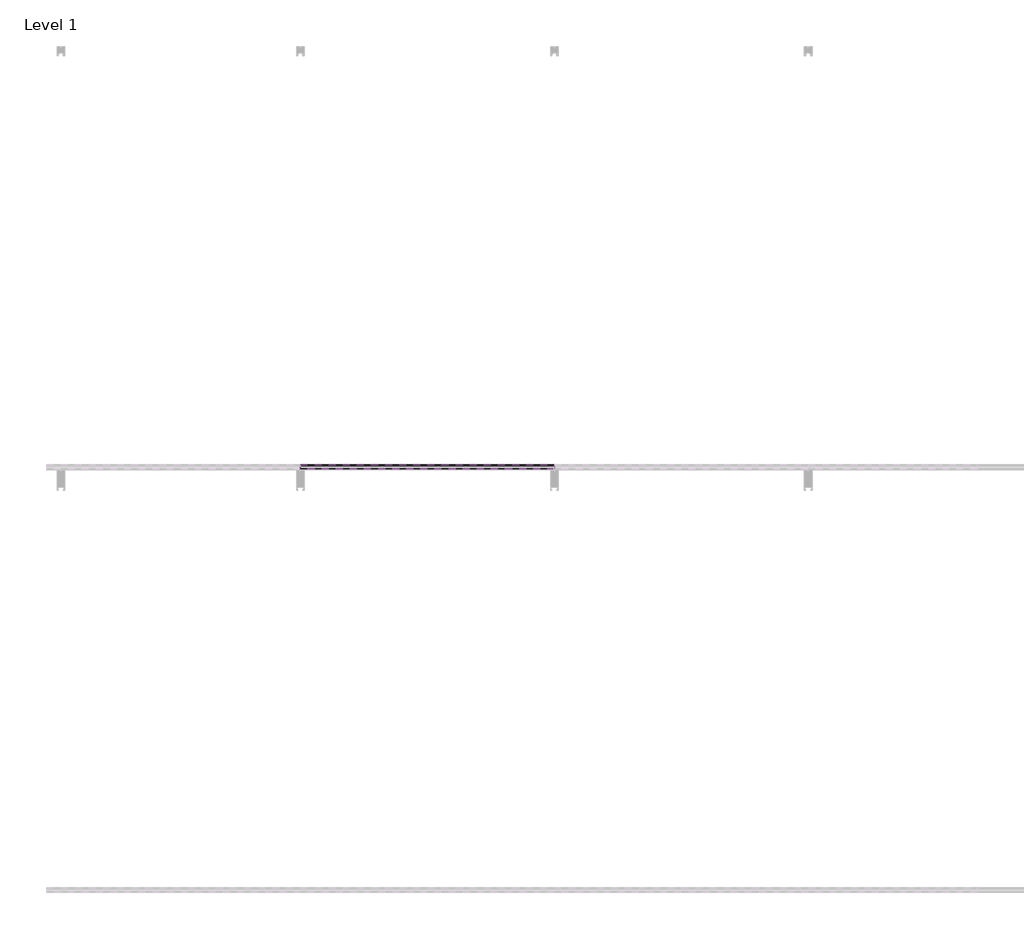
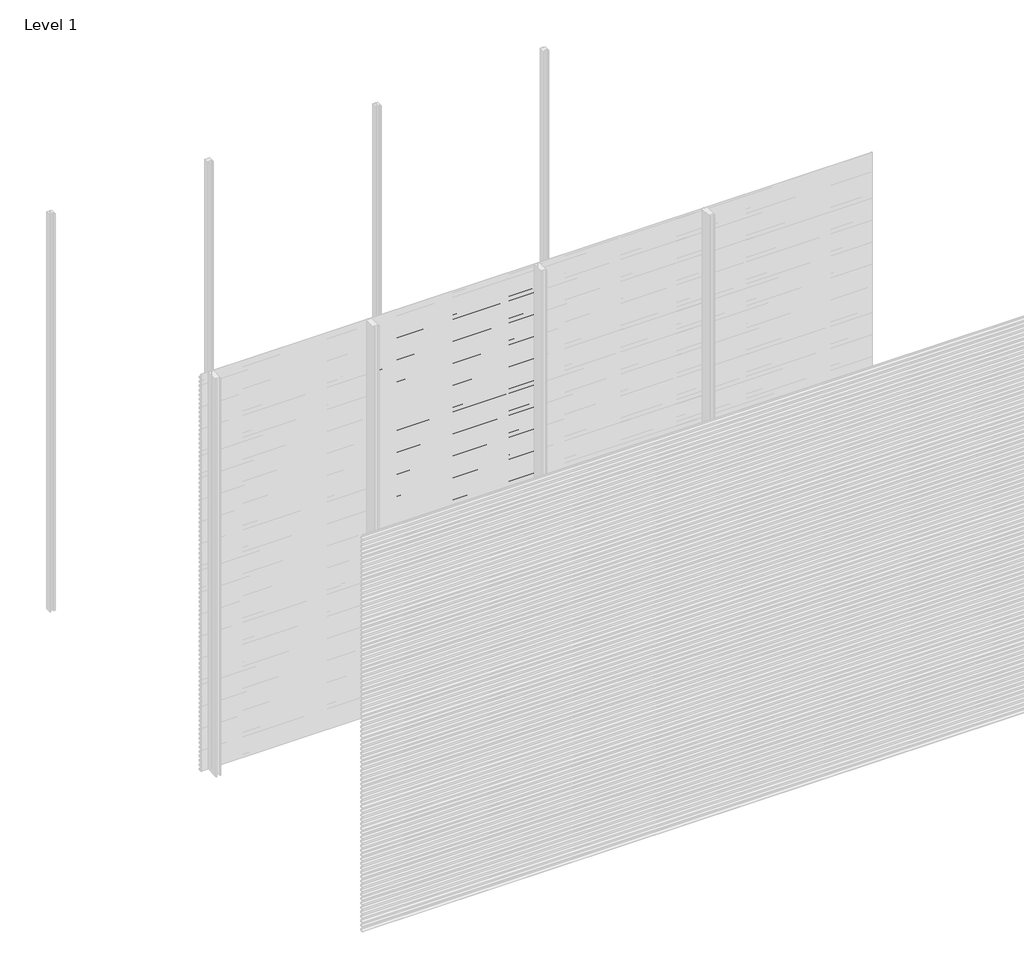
# One storey, part 51 of 77: 72 proxies.
"""IFC4 building model written with IfcOpenShell, lengths in millimetres."""

from ifc_helpers import new_model, si_unit, frame, origin, place, context, project, spatial, polyline, outline, extrude, element, save

model = new_model("IFC4")

# Units and contexts
model_context = context("Model", 3, world=origin())
ifc_project = project(units=[si_unit("LENGTHUNIT", "METRE", prefix="MILLI")], contexts=[model_context])

# Site, building, storey
site = spatial("IfcSite", under=ifc_project)
building = spatial("IfcBuilding", under=site)
storey = spatial("IfcBuildingStorey", under=building, Name="Level 1", Elevation=0.0)

# Proxies
placement = place(None, origin())
element("IfcBuildingElementProxy", 1, Name="Wall Sweeps", at=placement, inside=storey, context=model_context, shape_type="SweptSolid", body=[
    extrude(outline(polyline([(-17978.6, 2806.0359887), (-17998.0, 2817.2366691), (-17998.0, 2830.5), (-17997.0, 2830.5), (-17997.0, 2817.8191057), (-17977.6, 2806.6185105), (-17977.6, 2793.0185105), (-17978.6, 2794.5953129), (-17978.6, 2800.4032062), (-17995.9773817, 2792.3), (-17996.4, 2793.2063078), (-17978.6, 2801.5065841), (-17978.6, 2806.0359887)])), frame((1200.0, 0.0, 0.0), z_axis=(1.0, 0.0, 0.0), x_axis=(0.0, 1.0, 0.0)), (0.0, 0.0, 1.0), 1200.0),
])
element("IfcBuildingElementProxy", 2, Name="Wall Sweeps", at=placement, inside=storey, context=model_context, shape_type="SweptSolid", body=[
    extrude(outline(polyline([(-17978.6, 2772.7359887), (-17998.0, 2783.9366691), (-17998.0, 2797.2), (-17997.0, 2797.2), (-17997.0, 2784.5191057), (-17977.6, 2773.3185105), (-17977.6, 2759.7185105), (-17978.6, 2761.2953129), (-17978.6, 2767.1032062), (-17995.9773817, 2759.0), (-17996.4, 2759.9063078), (-17978.6, 2768.2065841), (-17978.6, 2772.7359887)])), frame((1200.0, 0.0, 0.0), z_axis=(1.0, 0.0, 0.0), x_axis=(0.0, 1.0, 0.0)), (0.0, 0.0, 1.0), 1200.0),
])
element("IfcBuildingElementProxy", 3, Name="Wall Sweeps", at=placement, inside=storey, context=model_context, shape_type="SweptSolid", body=[
    extrude(outline(polyline([(-17978.6, 2739.4359887), (-17998.0, 2750.6366691), (-17998.0, 2763.9), (-17997.0, 2763.9), (-17997.0, 2751.2191057), (-17977.6, 2740.0185105), (-17977.6, 2726.4185105), (-17978.6, 2727.9953129), (-17978.6, 2733.8032062), (-17995.9773817, 2725.7), (-17996.4, 2726.6063078), (-17978.6, 2734.9065841), (-17978.6, 2739.4359887)])), frame((1200.0, 0.0, 0.0), z_axis=(1.0, 0.0, 0.0), x_axis=(0.0, 1.0, 0.0)), (0.0, 0.0, 1.0), 1200.0),
])
element("IfcBuildingElementProxy", 4, Name="Wall Sweeps", at=placement, inside=storey, context=model_context, shape_type="SweptSolid", body=[
    extrude(outline(polyline([(-17978.6, 2706.1359887), (-17998.0, 2717.3366691), (-17998.0, 2730.6), (-17997.0, 2730.6), (-17997.0, 2717.9191057), (-17977.6, 2706.7185105), (-17977.6, 2693.1185105), (-17978.6, 2694.6953129), (-17978.6, 2700.5032062), (-17995.9773817, 2692.4), (-17996.4, 2693.3063078), (-17978.6, 2701.6065841), (-17978.6, 2706.1359887)])), frame((1200.0, 0.0, 0.0), z_axis=(1.0, 0.0, 0.0), x_axis=(0.0, 1.0, 0.0)), (0.0, 0.0, 1.0), 1200.0),
])
element("IfcBuildingElementProxy", 5, Name="Wall Sweeps", at=placement, inside=storey, context=model_context, shape_type="SweptSolid", body=[
    extrude(outline(polyline([(-17978.6, 2672.8359887), (-17998.0, 2684.0366691), (-17998.0, 2697.3), (-17997.0, 2697.3), (-17997.0, 2684.6191057), (-17977.6, 2673.4185105), (-17977.6, 2659.8185105), (-17978.6, 2661.3953129), (-17978.6, 2667.2032062), (-17995.9773817, 2659.1), (-17996.4, 2660.0063078), (-17978.6, 2668.3065841), (-17978.6, 2672.8359887)])), frame((1200.0, 0.0, 0.0), z_axis=(1.0, 0.0, 0.0), x_axis=(0.0, 1.0, 0.0)), (0.0, 0.0, 1.0), 1200.0),
])
element("IfcBuildingElementProxy", 6, Name="Wall Sweeps", at=placement, inside=storey, context=model_context, shape_type="SweptSolid", body=[
    extrude(outline(polyline([(-17978.6, 2639.5359887), (-17998.0, 2650.7366691), (-17998.0, 2664.0), (-17997.0, 2664.0), (-17997.0, 2651.3191057), (-17977.6, 2640.1185105), (-17977.6, 2626.5185105), (-17978.6, 2628.0953129), (-17978.6, 2633.9032062), (-17995.9773817, 2625.8), (-17996.4, 2626.7063078), (-17978.6, 2635.0065841), (-17978.6, 2639.5359887)])), frame((1200.0, 0.0, 0.0), z_axis=(1.0, 0.0, 0.0), x_axis=(0.0, 1.0, 0.0)), (0.0, 0.0, 1.0), 1200.0),
])
element("IfcBuildingElementProxy", 7, Name="Wall Sweeps", at=placement, inside=storey, context=model_context, shape_type="SweptSolid", body=[
    extrude(outline(polyline([(-17978.6, 2606.2359887), (-17998.0, 2617.4366691), (-17998.0, 2630.7), (-17997.0, 2630.7), (-17997.0, 2618.0191057), (-17977.6, 2606.8185105), (-17977.6, 2593.2185105), (-17978.6, 2594.7953129), (-17978.6, 2600.6032062), (-17995.9773817, 2592.5), (-17996.4, 2593.4063078), (-17978.6, 2601.7065841), (-17978.6, 2606.2359887)])), frame((1200.0, 0.0, 0.0), z_axis=(1.0, 0.0, 0.0), x_axis=(0.0, 1.0, 0.0)), (0.0, 0.0, 1.0), 1200.0),
])
element("IfcBuildingElementProxy", 8, Name="Wall Sweeps", at=placement, inside=storey, context=model_context, shape_type="SweptSolid", body=[
    extrude(outline(polyline([(-17978.6, 2572.9359887), (-17998.0, 2584.1366691), (-17998.0, 2597.4), (-17997.0, 2597.4), (-17997.0, 2584.7191057), (-17977.6, 2573.5185105), (-17977.6, 2559.9185105), (-17978.6, 2561.4953129), (-17978.6, 2567.3032062), (-17995.9773817, 2559.2), (-17996.4, 2560.1063078), (-17978.6, 2568.4065841), (-17978.6, 2572.9359887)])), frame((1200.0, 0.0, 0.0), z_axis=(1.0, 0.0, 0.0), x_axis=(0.0, 1.0, 0.0)), (0.0, 0.0, 1.0), 1200.0),
])
element("IfcBuildingElementProxy", 9, Name="Wall Sweeps", at=placement, inside=storey, context=model_context, shape_type="SweptSolid", body=[
    extrude(outline(polyline([(-17978.6, 2539.6359887), (-17998.0, 2550.8366691), (-17998.0, 2564.1), (-17997.0, 2564.1), (-17997.0, 2551.4191057), (-17977.6, 2540.2185105), (-17977.6, 2526.6185105), (-17978.6, 2528.1953129), (-17978.6, 2534.0032062), (-17995.9773817, 2525.9), (-17996.4, 2526.8063078), (-17978.6, 2535.1065841), (-17978.6, 2539.6359887)])), frame((1200.0, 0.0, 0.0), z_axis=(1.0, 0.0, 0.0), x_axis=(0.0, 1.0, 0.0)), (0.0, 0.0, 1.0), 1200.0),
])
element("IfcBuildingElementProxy", 10, Name="Wall Sweeps", at=placement, inside=storey, context=model_context, shape_type="SweptSolid", body=[
    extrude(outline(polyline([(-17978.6, 2506.3359887), (-17998.0, 2517.5366691), (-17998.0, 2530.8), (-17997.0, 2530.8), (-17997.0, 2518.1191057), (-17977.6, 2506.9185105), (-17977.6, 2493.3185105), (-17978.6, 2494.8953129), (-17978.6, 2500.7032062), (-17995.9773817, 2492.6), (-17996.4, 2493.5063078), (-17978.6, 2501.8065841), (-17978.6, 2506.3359887)])), frame((1200.0, 0.0, 0.0), z_axis=(1.0, 0.0, 0.0), x_axis=(0.0, 1.0, 0.0)), (0.0, 0.0, 1.0), 1200.0),
])
element("IfcBuildingElementProxy", 11, Name="Wall Sweeps", at=placement, inside=storey, context=model_context, shape_type="SweptSolid", body=[
    extrude(outline(polyline([(-17978.6, 2473.0359887), (-17998.0, 2484.2366691), (-17998.0, 2497.5), (-17997.0, 2497.5), (-17997.0, 2484.8191057), (-17977.6, 2473.6185105), (-17977.6, 2460.0185105), (-17978.6, 2461.5953129), (-17978.6, 2467.4032062), (-17995.9773817, 2459.3), (-17996.4, 2460.2063078), (-17978.6, 2468.5065841), (-17978.6, 2473.0359887)])), frame((1200.0, 0.0, 0.0), z_axis=(1.0, 0.0, 0.0), x_axis=(0.0, 1.0, 0.0)), (0.0, 0.0, 1.0), 1200.0),
])
element("IfcBuildingElementProxy", 12, Name="Wall Sweeps", at=placement, inside=storey, context=model_context, shape_type="SweptSolid", body=[
    extrude(outline(polyline([(-17978.6, 2439.7359887), (-17998.0, 2450.9366691), (-17998.0, 2464.2), (-17997.0, 2464.2), (-17997.0, 2451.5191057), (-17977.6, 2440.3185105), (-17977.6, 2426.7185105), (-17978.6, 2428.2953129), (-17978.6, 2434.1032062), (-17995.9773817, 2426.0), (-17996.4, 2426.9063078), (-17978.6, 2435.2065841), (-17978.6, 2439.7359887)])), frame((1200.0, 0.0, 0.0), z_axis=(1.0, 0.0, 0.0), x_axis=(0.0, 1.0, 0.0)), (0.0, 0.0, 1.0), 1200.0),
])
element("IfcBuildingElementProxy", 13, Name="Wall Sweeps", at=placement, inside=storey, context=model_context, shape_type="SweptSolid", body=[
    extrude(outline(polyline([(-17978.6, 2406.4359887), (-17998.0, 2417.6366691), (-17998.0, 2430.9), (-17997.0, 2430.9), (-17997.0, 2418.2191057), (-17977.6, 2407.0185105), (-17977.6, 2393.4185105), (-17978.6, 2394.9953129), (-17978.6, 2400.8032062), (-17995.9773817, 2392.7), (-17996.4, 2393.6063078), (-17978.6, 2401.9065841), (-17978.6, 2406.4359887)])), frame((1200.0, 0.0, 0.0), z_axis=(1.0, 0.0, 0.0), x_axis=(0.0, 1.0, 0.0)), (0.0, 0.0, 1.0), 1200.0),
])
element("IfcBuildingElementProxy", 14, Name="Wall Sweeps", at=placement, inside=storey, context=model_context, shape_type="SweptSolid", body=[
    extrude(outline(polyline([(-17978.6, 2373.1359887), (-17998.0, 2384.3366691), (-17998.0, 2397.6), (-17997.0, 2397.6), (-17997.0, 2384.9191057), (-17977.6, 2373.7185105), (-17977.6, 2360.1185105), (-17978.6, 2361.6953129), (-17978.6, 2367.5032062), (-17995.9773817, 2359.4), (-17996.4, 2360.3063078), (-17978.6, 2368.6065841), (-17978.6, 2373.1359887)])), frame((1200.0, 0.0, 0.0), z_axis=(1.0, 0.0, 0.0), x_axis=(0.0, 1.0, 0.0)), (0.0, 0.0, 1.0), 1200.0),
])
element("IfcBuildingElementProxy", 15, Name="Wall Sweeps", at=placement, inside=storey, context=model_context, shape_type="SweptSolid", body=[
    extrude(outline(polyline([(-17978.6, 2339.8359887), (-17998.0, 2351.0366691), (-17998.0, 2364.3), (-17997.0, 2364.3), (-17997.0, 2351.6191057), (-17977.6, 2340.4185105), (-17977.6, 2326.8185105), (-17978.6, 2328.3953129), (-17978.6, 2334.2032062), (-17995.9773817, 2326.1), (-17996.4, 2327.0063078), (-17978.6, 2335.3065841), (-17978.6, 2339.8359887)])), frame((1200.0, 0.0, 0.0), z_axis=(1.0, 0.0, 0.0), x_axis=(0.0, 1.0, 0.0)), (0.0, 0.0, 1.0), 1200.0),
])
element("IfcBuildingElementProxy", 16, Name="Wall Sweeps", at=placement, inside=storey, context=model_context, shape_type="SweptSolid", body=[
    extrude(outline(polyline([(-17978.6, 2306.5359887), (-17998.0, 2317.7366691), (-17998.0, 2331.0), (-17997.0, 2331.0), (-17997.0, 2318.3191057), (-17977.6, 2307.1185105), (-17977.6, 2293.5185105), (-17978.6, 2295.0953129), (-17978.6, 2300.9032062), (-17995.9773817, 2292.8), (-17996.4, 2293.7063078), (-17978.6, 2302.0065841), (-17978.6, 2306.5359887)])), frame((1200.0, 0.0, 0.0), z_axis=(1.0, 0.0, 0.0), x_axis=(0.0, 1.0, 0.0)), (0.0, 0.0, 1.0), 1200.0),
])
element("IfcBuildingElementProxy", 17, Name="Wall Sweeps", at=placement, inside=storey, context=model_context, shape_type="SweptSolid", body=[
    extrude(outline(polyline([(-17978.6, 2273.2359887), (-17998.0, 2284.4366691), (-17998.0, 2297.7), (-17997.0, 2297.7), (-17997.0, 2285.0191057), (-17977.6, 2273.8185105), (-17977.6, 2260.2185105), (-17978.6, 2261.7953129), (-17978.6, 2267.6032062), (-17995.9773817, 2259.5), (-17996.4, 2260.4063078), (-17978.6, 2268.7065841), (-17978.6, 2273.2359887)])), frame((1200.0, 0.0, 0.0), z_axis=(1.0, 0.0, 0.0), x_axis=(0.0, 1.0, 0.0)), (0.0, 0.0, 1.0), 1200.0),
])
element("IfcBuildingElementProxy", 18, Name="Wall Sweeps", at=placement, inside=storey, context=model_context, shape_type="SweptSolid", body=[
    extrude(outline(polyline([(-17978.6, 2239.9359887), (-17998.0, 2251.1366691), (-17998.0, 2264.4), (-17997.0, 2264.4), (-17997.0, 2251.7191057), (-17977.6, 2240.5185105), (-17977.6, 2226.9185105), (-17978.6, 2228.4953129), (-17978.6, 2234.3032062), (-17995.9773817, 2226.2), (-17996.4, 2227.1063078), (-17978.6, 2235.4065841), (-17978.6, 2239.9359887)])), frame((1200.0, 0.0, 0.0), z_axis=(1.0, 0.0, 0.0), x_axis=(0.0, 1.0, 0.0)), (0.0, 0.0, 1.0), 1200.0),
])
element("IfcBuildingElementProxy", 19, Name="Wall Sweeps", at=placement, inside=storey, context=model_context, shape_type="SweptSolid", body=[
    extrude(outline(polyline([(-17978.6, 2206.6359887), (-17998.0, 2217.8366691), (-17998.0, 2231.1), (-17997.0, 2231.1), (-17997.0, 2218.4191057), (-17977.6, 2207.2185105), (-17977.6, 2193.6185105), (-17978.6, 2195.1953129), (-17978.6, 2201.0032062), (-17995.9773817, 2192.9), (-17996.4, 2193.8063078), (-17978.6, 2202.1065841), (-17978.6, 2206.6359887)])), frame((1200.0, 0.0, 0.0), z_axis=(1.0, 0.0, 0.0), x_axis=(0.0, 1.0, 0.0)), (0.0, 0.0, 1.0), 1200.0),
])
element("IfcBuildingElementProxy", 20, Name="Wall Sweeps", at=placement, inside=storey, context=model_context, shape_type="SweptSolid", body=[
    extrude(outline(polyline([(-17978.6, 2173.3359887), (-17998.0, 2184.5366691), (-17998.0, 2197.8), (-17997.0, 2197.8), (-17997.0, 2185.1191057), (-17977.6, 2173.9185105), (-17977.6, 2160.3185105), (-17978.6, 2161.8953129), (-17978.6, 2167.7032062), (-17995.9773817, 2159.6), (-17996.4, 2160.5063078), (-17978.6, 2168.8065841), (-17978.6, 2173.3359887)])), frame((1200.0, 0.0, 0.0), z_axis=(1.0, 0.0, 0.0), x_axis=(0.0, 1.0, 0.0)), (0.0, 0.0, 1.0), 1200.0),
])
element("IfcBuildingElementProxy", 21, Name="Wall Sweeps", at=placement, inside=storey, context=model_context, shape_type="SweptSolid", body=[
    extrude(outline(polyline([(-17978.6, 2140.0359887), (-17998.0, 2151.2366691), (-17998.0, 2164.5), (-17997.0, 2164.5), (-17997.0, 2151.8191057), (-17977.6, 2140.6185105), (-17977.6, 2127.0185105), (-17978.6, 2128.5953129), (-17978.6, 2134.4032062), (-17995.9773817, 2126.3), (-17996.4, 2127.2063078), (-17978.6, 2135.5065841), (-17978.6, 2140.0359887)])), frame((1200.0, 0.0, 0.0), z_axis=(1.0, 0.0, 0.0), x_axis=(0.0, 1.0, 0.0)), (0.0, 0.0, 1.0), 1200.0),
])
element("IfcBuildingElementProxy", 22, Name="Wall Sweeps", at=placement, inside=storey, context=model_context, shape_type="SweptSolid", body=[
    extrude(outline(polyline([(-17978.6, 2106.7359887), (-17998.0, 2117.9366691), (-17998.0, 2131.2), (-17997.0, 2131.2), (-17997.0, 2118.5191057), (-17977.6, 2107.3185105), (-17977.6, 2093.7185105), (-17978.6, 2095.2953129), (-17978.6, 2101.1032062), (-17995.9773817, 2093.0), (-17996.4, 2093.9063078), (-17978.6, 2102.2065841), (-17978.6, 2106.7359887)])), frame((1200.0, 0.0, 0.0), z_axis=(1.0, 0.0, 0.0), x_axis=(0.0, 1.0, 0.0)), (0.0, 0.0, 1.0), 1200.0),
])
element("IfcBuildingElementProxy", 23, Name="Wall Sweeps", at=placement, inside=storey, context=model_context, shape_type="SweptSolid", body=[
    extrude(outline(polyline([(-17978.6, 2073.4359887), (-17998.0, 2084.6366691), (-17998.0, 2097.9), (-17997.0, 2097.9), (-17997.0, 2085.2191057), (-17977.6, 2074.0185105), (-17977.6, 2060.4185105), (-17978.6, 2061.9953129), (-17978.6, 2067.8032062), (-17995.9773817, 2059.7), (-17996.4, 2060.6063078), (-17978.6, 2068.9065841), (-17978.6, 2073.4359887)])), frame((1200.0, 0.0, 0.0), z_axis=(1.0, 0.0, 0.0), x_axis=(0.0, 1.0, 0.0)), (0.0, 0.0, 1.0), 1200.0),
])
element("IfcBuildingElementProxy", 24, Name="Wall Sweeps", at=placement, inside=storey, context=model_context, shape_type="SweptSolid", body=[
    extrude(outline(polyline([(-17978.6, 2040.1359887), (-17998.0, 2051.3366691), (-17998.0, 2064.6), (-17997.0, 2064.6), (-17997.0, 2051.9191057), (-17977.6, 2040.7185105), (-17977.6, 2027.1185105), (-17978.6, 2028.6953129), (-17978.6, 2034.5032062), (-17995.9773817, 2026.4), (-17996.4, 2027.3063078), (-17978.6, 2035.6065841), (-17978.6, 2040.1359887)])), frame((1200.0, 0.0, 0.0), z_axis=(1.0, 0.0, 0.0), x_axis=(0.0, 1.0, 0.0)), (0.0, 0.0, 1.0), 1200.0),
])
element("IfcBuildingElementProxy", 25, Name="Wall Sweeps", at=placement, inside=storey, context=model_context, shape_type="SweptSolid", body=[
    extrude(outline(polyline([(-17978.6, 2006.8359887), (-17998.0, 2018.0366691), (-17998.0, 2031.3), (-17997.0, 2031.3), (-17997.0, 2018.6191057), (-17977.6, 2007.4185105), (-17977.6, 1993.8185105), (-17978.6, 1995.3953129), (-17978.6, 2001.2032062), (-17995.9773817, 1993.1), (-17996.4, 1994.0063078), (-17978.6, 2002.3065841), (-17978.6, 2006.8359887)])), frame((1200.0, 0.0, 0.0), z_axis=(1.0, 0.0, 0.0), x_axis=(0.0, 1.0, 0.0)), (0.0, 0.0, 1.0), 1200.0),
])
element("IfcBuildingElementProxy", 26, Name="Wall Sweeps", at=placement, inside=storey, context=model_context, shape_type="SweptSolid", body=[
    extrude(outline(polyline([(-17978.6, 1973.5359887), (-17998.0, 1984.7366691), (-17998.0, 1998.0), (-17997.0, 1998.0), (-17997.0, 1985.3191057), (-17977.6, 1974.1185105), (-17977.6, 1960.5185105), (-17978.6, 1962.0953129), (-17978.6, 1967.9032062), (-17995.9773817, 1959.8), (-17996.4, 1960.7063078), (-17978.6, 1969.0065841), (-17978.6, 1973.5359887)])), frame((1200.0, 0.0, 0.0), z_axis=(1.0, 0.0, 0.0), x_axis=(0.0, 1.0, 0.0)), (0.0, 0.0, 1.0), 1200.0),
])
element("IfcBuildingElementProxy", 27, Name="Wall Sweeps", at=placement, inside=storey, context=model_context, shape_type="SweptSolid", body=[
    extrude(outline(polyline([(-17978.6, 1940.2359887), (-17998.0, 1951.4366691), (-17998.0, 1964.7), (-17997.0, 1964.7), (-17997.0, 1952.0191057), (-17977.6, 1940.8185105), (-17977.6, 1927.2185105), (-17978.6, 1928.7953129), (-17978.6, 1934.6032062), (-17995.9773817, 1926.5), (-17996.4, 1927.4063078), (-17978.6, 1935.7065841), (-17978.6, 1940.2359887)])), frame((1200.0, 0.0, 0.0), z_axis=(1.0, 0.0, 0.0), x_axis=(0.0, 1.0, 0.0)), (0.0, 0.0, 1.0), 1200.0),
])
element("IfcBuildingElementProxy", 28, Name="Wall Sweeps", at=placement, inside=storey, context=model_context, shape_type="SweptSolid", body=[
    extrude(outline(polyline([(-17978.6, 1906.9359887), (-17998.0, 1918.1366691), (-17998.0, 1931.4), (-17997.0, 1931.4), (-17997.0, 1918.7191057), (-17977.6, 1907.5185105), (-17977.6, 1893.9185105), (-17978.6, 1895.4953129), (-17978.6, 1901.3032062), (-17995.9773817, 1893.2), (-17996.4, 1894.1063078), (-17978.6, 1902.4065841), (-17978.6, 1906.9359887)])), frame((1200.0, 0.0, 0.0), z_axis=(1.0, 0.0, 0.0), x_axis=(0.0, 1.0, 0.0)), (0.0, 0.0, 1.0), 1200.0),
])
element("IfcBuildingElementProxy", 29, Name="Wall Sweeps", at=placement, inside=storey, context=model_context, shape_type="SweptSolid", body=[
    extrude(outline(polyline([(-17978.6, 1873.6359887), (-17998.0, 1884.8366691), (-17998.0, 1898.1), (-17997.0, 1898.1), (-17997.0, 1885.4191057), (-17977.6, 1874.2185105), (-17977.6, 1860.6185105), (-17978.6, 1862.1953129), (-17978.6, 1868.0032062), (-17995.9773817, 1859.9), (-17996.4, 1860.8063078), (-17978.6, 1869.1065841), (-17978.6, 1873.6359887)])), frame((1200.0, 0.0, 0.0), z_axis=(1.0, 0.0, 0.0), x_axis=(0.0, 1.0, 0.0)), (0.0, 0.0, 1.0), 1200.0),
])
element("IfcBuildingElementProxy", 30, Name="Wall Sweeps", at=placement, inside=storey, context=model_context, shape_type="SweptSolid", body=[
    extrude(outline(polyline([(-17978.6, 1840.3359887), (-17998.0, 1851.5366691), (-17998.0, 1864.8), (-17997.0, 1864.8), (-17997.0, 1852.1191057), (-17977.6, 1840.9185105), (-17977.6, 1827.3185105), (-17978.6, 1828.8953129), (-17978.6, 1834.7032062), (-17995.9773817, 1826.6), (-17996.4, 1827.5063078), (-17978.6, 1835.8065841), (-17978.6, 1840.3359887)])), frame((1200.0, 0.0, 0.0), z_axis=(1.0, 0.0, 0.0), x_axis=(0.0, 1.0, 0.0)), (0.0, 0.0, 1.0), 1200.0),
])
element("IfcBuildingElementProxy", 31, Name="Wall Sweeps", at=placement, inside=storey, context=model_context, shape_type="SweptSolid", body=[
    extrude(outline(polyline([(-17978.6, 1807.0359887), (-17998.0, 1818.2366691), (-17998.0, 1831.5), (-17997.0, 1831.5), (-17997.0, 1818.8191057), (-17977.6, 1807.6185105), (-17977.6, 1794.0185105), (-17978.6, 1795.5953129), (-17978.6, 1801.4032062), (-17995.9773817, 1793.3), (-17996.4, 1794.2063078), (-17978.6, 1802.5065841), (-17978.6, 1807.0359887)])), frame((1200.0, 0.0, 0.0), z_axis=(1.0, 0.0, 0.0), x_axis=(0.0, 1.0, 0.0)), (0.0, 0.0, 1.0), 1200.0),
])
element("IfcBuildingElementProxy", 32, Name="Wall Sweeps", at=placement, inside=storey, context=model_context, shape_type="SweptSolid", body=[
    extrude(outline(polyline([(-17978.6, 1773.7359887), (-17998.0, 1784.9366691), (-17998.0, 1798.2), (-17997.0, 1798.2), (-17997.0, 1785.5191057), (-17977.6, 1774.3185105), (-17977.6, 1760.7185105), (-17978.6, 1762.2953129), (-17978.6, 1768.1032062), (-17995.9773817, 1760.0), (-17996.4, 1760.9063078), (-17978.6, 1769.2065841), (-17978.6, 1773.7359887)])), frame((1200.0, 0.0, 0.0), z_axis=(1.0, 0.0, 0.0), x_axis=(0.0, 1.0, 0.0)), (0.0, 0.0, 1.0), 1200.0),
])
element("IfcBuildingElementProxy", 33, Name="Wall Sweeps", at=placement, inside=storey, context=model_context, shape_type="SweptSolid", body=[
    extrude(outline(polyline([(-17978.6, 1740.4359887), (-17998.0, 1751.6366691), (-17998.0, 1764.9), (-17997.0, 1764.9), (-17997.0, 1752.2191057), (-17977.6, 1741.0185105), (-17977.6, 1727.4185105), (-17978.6, 1728.9953129), (-17978.6, 1734.8032062), (-17995.9773817, 1726.7), (-17996.4, 1727.6063078), (-17978.6, 1735.9065841), (-17978.6, 1740.4359887)])), frame((1200.0, 0.0, 0.0), z_axis=(1.0, 0.0, 0.0), x_axis=(0.0, 1.0, 0.0)), (0.0, 0.0, 1.0), 1200.0),
])
element("IfcBuildingElementProxy", 34, Name="Wall Sweeps", at=placement, inside=storey, context=model_context, shape_type="SweptSolid", body=[
    extrude(outline(polyline([(-17978.6, 1707.1359887), (-17998.0, 1718.3366691), (-17998.0, 1731.6), (-17997.0, 1731.6), (-17997.0, 1718.9191057), (-17977.6, 1707.7185105), (-17977.6, 1694.1185105), (-17978.6, 1695.6953129), (-17978.6, 1701.5032062), (-17995.9773817, 1693.4), (-17996.4, 1694.3063078), (-17978.6, 1702.6065841), (-17978.6, 1707.1359887)])), frame((1200.0, 0.0, 0.0), z_axis=(1.0, 0.0, 0.0), x_axis=(0.0, 1.0, 0.0)), (0.0, 0.0, 1.0), 1200.0),
])
element("IfcBuildingElementProxy", 35, Name="Wall Sweeps", at=placement, inside=storey, context=model_context, shape_type="SweptSolid", body=[
    extrude(outline(polyline([(-17978.6, 1673.8359887), (-17998.0, 1685.0366691), (-17998.0, 1698.3), (-17997.0, 1698.3), (-17997.0, 1685.6191057), (-17977.6, 1674.4185105), (-17977.6, 1660.8185105), (-17978.6, 1662.3953129), (-17978.6, 1668.2032062), (-17995.9773817, 1660.1), (-17996.4, 1661.0063078), (-17978.6, 1669.3065841), (-17978.6, 1673.8359887)])), frame((1200.0, 0.0, 0.0), z_axis=(1.0, 0.0, 0.0), x_axis=(0.0, 1.0, 0.0)), (0.0, 0.0, 1.0), 1200.0),
])
element("IfcBuildingElementProxy", 36, Name="Wall Sweeps", at=placement, inside=storey, context=model_context, shape_type="SweptSolid", body=[
    extrude(outline(polyline([(-17978.6, 1640.5359887), (-17998.0, 1651.7366691), (-17998.0, 1665.0), (-17997.0, 1665.0), (-17997.0, 1652.3191057), (-17977.6, 1641.1185105), (-17977.6, 1627.5185105), (-17978.6, 1629.0953129), (-17978.6, 1634.9032062), (-17995.9773817, 1626.8), (-17996.4, 1627.7063078), (-17978.6, 1636.0065841), (-17978.6, 1640.5359887)])), frame((1200.0, 0.0, 0.0), z_axis=(1.0, 0.0, 0.0), x_axis=(0.0, 1.0, 0.0)), (0.0, 0.0, 1.0), 1200.0),
])
element("IfcBuildingElementProxy", 37, Name="Wall Sweeps", at=placement, inside=storey, context=model_context, shape_type="SweptSolid", body=[
    extrude(outline(polyline([(-17978.6, 1607.2359887), (-17998.0, 1618.4366691), (-17998.0, 1631.7), (-17997.0, 1631.7), (-17997.0, 1619.0191057), (-17977.6, 1607.8185105), (-17977.6, 1594.2185105), (-17978.6, 1595.7953129), (-17978.6, 1601.6032062), (-17995.9773817, 1593.5), (-17996.4, 1594.4063078), (-17978.6, 1602.7065841), (-17978.6, 1607.2359887)])), frame((1200.0, 0.0, 0.0), z_axis=(1.0, 0.0, 0.0), x_axis=(0.0, 1.0, 0.0)), (0.0, 0.0, 1.0), 1200.0),
])
element("IfcBuildingElementProxy", 38, Name="Wall Sweeps", at=placement, inside=storey, context=model_context, shape_type="SweptSolid", body=[
    extrude(outline(polyline([(-17978.6, 1573.9359887), (-17998.0, 1585.1366691), (-17998.0, 1598.4), (-17997.0, 1598.4), (-17997.0, 1585.7191057), (-17977.6, 1574.5185105), (-17977.6, 1560.9185105), (-17978.6, 1562.4953129), (-17978.6, 1568.3032062), (-17995.9773817, 1560.2), (-17996.4, 1561.1063078), (-17978.6, 1569.4065841), (-17978.6, 1573.9359887)])), frame((1200.0, 0.0, 0.0), z_axis=(1.0, 0.0, 0.0), x_axis=(0.0, 1.0, 0.0)), (0.0, 0.0, 1.0), 1200.0),
])
element("IfcBuildingElementProxy", 39, Name="Wall Sweeps", at=placement, inside=storey, context=model_context, shape_type="SweptSolid", body=[
    extrude(outline(polyline([(-17978.6, 1540.6359887), (-17998.0, 1551.8366691), (-17998.0, 1565.1), (-17997.0, 1565.1), (-17997.0, 1552.4191057), (-17977.6, 1541.2185105), (-17977.6, 1527.6185105), (-17978.6, 1529.1953129), (-17978.6, 1535.0032062), (-17995.9773817, 1526.9), (-17996.4, 1527.8063078), (-17978.6, 1536.1065841), (-17978.6, 1540.6359887)])), frame((1200.0, 0.0, 0.0), z_axis=(1.0, 0.0, 0.0), x_axis=(0.0, 1.0, 0.0)), (0.0, 0.0, 1.0), 1200.0),
])
element("IfcBuildingElementProxy", 40, Name="Wall Sweeps", at=placement, inside=storey, context=model_context, shape_type="SweptSolid", body=[
    extrude(outline(polyline([(-17978.6, 1507.3359887), (-17998.0, 1518.5366691), (-17998.0, 1531.8), (-17997.0, 1531.8), (-17997.0, 1519.1191057), (-17977.6, 1507.9185105), (-17977.6, 1494.3185105), (-17978.6, 1495.8953129), (-17978.6, 1501.7032062), (-17995.9773817, 1493.6), (-17996.4, 1494.5063078), (-17978.6, 1502.8065841), (-17978.6, 1507.3359887)])), frame((1200.0, 0.0, 0.0), z_axis=(1.0, 0.0, 0.0), x_axis=(0.0, 1.0, 0.0)), (0.0, 0.0, 1.0), 1200.0),
])
element("IfcBuildingElementProxy", 41, Name="Wall Sweeps", at=placement, inside=storey, context=model_context, shape_type="SweptSolid", body=[
    extrude(outline(polyline([(-17978.6, 1474.0359887), (-17998.0, 1485.2366691), (-17998.0, 1498.5), (-17997.0, 1498.5), (-17997.0, 1485.8191057), (-17977.6, 1474.6185105), (-17977.6, 1461.0185105), (-17978.6, 1462.5953129), (-17978.6, 1468.4032062), (-17995.9773817, 1460.3), (-17996.4, 1461.2063078), (-17978.6, 1469.5065841), (-17978.6, 1474.0359887)])), frame((1200.0, 0.0, 0.0), z_axis=(1.0, 0.0, 0.0), x_axis=(0.0, 1.0, 0.0)), (0.0, 0.0, 1.0), 1200.0),
])
element("IfcBuildingElementProxy", 42, Name="Wall Sweeps", at=placement, inside=storey, context=model_context, shape_type="SweptSolid", body=[
    extrude(outline(polyline([(-17978.6, 1440.7359887), (-17998.0, 1451.9366691), (-17998.0, 1465.2), (-17997.0, 1465.2), (-17997.0, 1452.5191057), (-17977.6, 1441.3185105), (-17977.6, 1427.7185105), (-17978.6, 1429.2953129), (-17978.6, 1435.1032062), (-17995.9773817, 1427.0), (-17996.4, 1427.9063078), (-17978.6, 1436.2065841), (-17978.6, 1440.7359887)])), frame((1200.0, 0.0, 0.0), z_axis=(1.0, 0.0, 0.0), x_axis=(0.0, 1.0, 0.0)), (0.0, 0.0, 1.0), 1200.0),
])
element("IfcBuildingElementProxy", 43, Name="Wall Sweeps", at=placement, inside=storey, context=model_context, shape_type="SweptSolid", body=[
    extrude(outline(polyline([(-17978.6, 1407.4359887), (-17998.0, 1418.6366691), (-17998.0, 1431.9), (-17997.0, 1431.9), (-17997.0, 1419.2191057), (-17977.6, 1408.0185105), (-17977.6, 1394.4185105), (-17978.6, 1395.9953129), (-17978.6, 1401.8032062), (-17995.9773817, 1393.7), (-17996.4, 1394.6063078), (-17978.6, 1402.9065841), (-17978.6, 1407.4359887)])), frame((1200.0, 0.0, 0.0), z_axis=(1.0, 0.0, 0.0), x_axis=(0.0, 1.0, 0.0)), (0.0, 0.0, 1.0), 1200.0),
])
element("IfcBuildingElementProxy", 44, Name="Wall Sweeps", at=placement, inside=storey, context=model_context, shape_type="SweptSolid", body=[
    extrude(outline(polyline([(-17978.6, 1374.1359887), (-17998.0, 1385.3366691), (-17998.0, 1398.6), (-17997.0, 1398.6), (-17997.0, 1385.9191057), (-17977.6, 1374.7185105), (-17977.6, 1361.1185105), (-17978.6, 1362.6953129), (-17978.6, 1368.5032062), (-17995.9773817, 1360.4), (-17996.4, 1361.3063078), (-17978.6, 1369.6065841), (-17978.6, 1374.1359887)])), frame((1200.0, 0.0, 0.0), z_axis=(1.0, 0.0, 0.0), x_axis=(0.0, 1.0, 0.0)), (0.0, 0.0, 1.0), 1200.0),
])
element("IfcBuildingElementProxy", 45, Name="Wall Sweeps", at=placement, inside=storey, context=model_context, shape_type="SweptSolid", body=[
    extrude(outline(polyline([(-17978.6, 1340.8359887), (-17998.0, 1352.0366691), (-17998.0, 1365.3), (-17997.0, 1365.3), (-17997.0, 1352.6191057), (-17977.6, 1341.4185105), (-17977.6, 1327.8185105), (-17978.6, 1329.3953129), (-17978.6, 1335.2032062), (-17995.9773817, 1327.1), (-17996.4, 1328.0063078), (-17978.6, 1336.3065841), (-17978.6, 1340.8359887)])), frame((1200.0, 0.0, 0.0), z_axis=(1.0, 0.0, 0.0), x_axis=(0.0, 1.0, 0.0)), (0.0, 0.0, 1.0), 1200.0),
])
element("IfcBuildingElementProxy", 46, Name="Wall Sweeps", at=placement, inside=storey, context=model_context, shape_type="SweptSolid", body=[
    extrude(outline(polyline([(-17978.6, 1307.5359887), (-17998.0, 1318.7366691), (-17998.0, 1332.0), (-17997.0, 1332.0), (-17997.0, 1319.3191057), (-17977.6, 1308.1185105), (-17977.6, 1294.5185105), (-17978.6, 1296.0953129), (-17978.6, 1301.9032062), (-17995.9773817, 1293.8), (-17996.4, 1294.7063078), (-17978.6, 1303.0065841), (-17978.6, 1307.5359887)])), frame((1200.0, 0.0, 0.0), z_axis=(1.0, 0.0, 0.0), x_axis=(0.0, 1.0, 0.0)), (0.0, 0.0, 1.0), 1200.0),
])
element("IfcBuildingElementProxy", 47, Name="Wall Sweeps", at=placement, inside=storey, context=model_context, shape_type="SweptSolid", body=[
    extrude(outline(polyline([(-17978.6, 1274.2359887), (-17998.0, 1285.4366691), (-17998.0, 1298.7), (-17997.0, 1298.7), (-17997.0, 1286.0191057), (-17977.6, 1274.8185105), (-17977.6, 1261.2185105), (-17978.6, 1262.7953129), (-17978.6, 1268.6032062), (-17995.9773817, 1260.5), (-17996.4, 1261.4063078), (-17978.6, 1269.7065841), (-17978.6, 1274.2359887)])), frame((1200.0, 0.0, 0.0), z_axis=(1.0, 0.0, 0.0), x_axis=(0.0, 1.0, 0.0)), (0.0, 0.0, 1.0), 1200.0),
])
element("IfcBuildingElementProxy", 48, Name="Wall Sweeps", at=placement, inside=storey, context=model_context, shape_type="SweptSolid", body=[
    extrude(outline(polyline([(-17978.6, 1240.9359887), (-17998.0, 1252.1366691), (-17998.0, 1265.4), (-17997.0, 1265.4), (-17997.0, 1252.7191057), (-17977.6, 1241.5185105), (-17977.6, 1227.9185105), (-17978.6, 1229.4953129), (-17978.6, 1235.3032062), (-17995.9773817, 1227.2), (-17996.4, 1228.1063078), (-17978.6, 1236.4065841), (-17978.6, 1240.9359887)])), frame((1200.0, 0.0, 0.0), z_axis=(1.0, 0.0, 0.0), x_axis=(0.0, 1.0, 0.0)), (0.0, 0.0, 1.0), 1200.0),
])
element("IfcBuildingElementProxy", 49, Name="Wall Sweeps", at=placement, inside=storey, context=model_context, shape_type="SweptSolid", body=[
    extrude(outline(polyline([(-17978.6, 1207.6359887), (-17998.0, 1218.8366691), (-17998.0, 1232.1), (-17997.0, 1232.1), (-17997.0, 1219.4191057), (-17977.6, 1208.2185105), (-17977.6, 1194.6185105), (-17978.6, 1196.1953129), (-17978.6, 1202.0032062), (-17995.9773817, 1193.9), (-17996.4, 1194.8063078), (-17978.6, 1203.1065841), (-17978.6, 1207.6359887)])), frame((1200.0, 0.0, 0.0), z_axis=(1.0, 0.0, 0.0), x_axis=(0.0, 1.0, 0.0)), (0.0, 0.0, 1.0), 1200.0),
])
element("IfcBuildingElementProxy", 50, Name="Wall Sweeps", at=placement, inside=storey, context=model_context, shape_type="SweptSolid", body=[
    extrude(outline(polyline([(-17978.6, 1174.3359887), (-17998.0, 1185.5366691), (-17998.0, 1198.8), (-17997.0, 1198.8), (-17997.0, 1186.1191057), (-17977.6, 1174.9185105), (-17977.6, 1161.3185105), (-17978.6, 1162.8953129), (-17978.6, 1168.7032062), (-17995.9773817, 1160.6), (-17996.4, 1161.5063078), (-17978.6, 1169.8065841), (-17978.6, 1174.3359887)])), frame((1200.0, 0.0, 0.0), z_axis=(1.0, 0.0, 0.0), x_axis=(0.0, 1.0, 0.0)), (0.0, 0.0, 1.0), 1200.0),
])
element("IfcBuildingElementProxy", 51, Name="Wall Sweeps", at=placement, inside=storey, context=model_context, shape_type="SweptSolid", body=[
    extrude(outline(polyline([(-17978.6, 1141.0359887), (-17998.0, 1152.2366691), (-17998.0, 1165.5), (-17997.0, 1165.5), (-17997.0, 1152.8191057), (-17977.6, 1141.6185105), (-17977.6, 1128.0185105), (-17978.6, 1129.5953129), (-17978.6, 1135.4032062), (-17995.9773817, 1127.3), (-17996.4, 1128.2063078), (-17978.6, 1136.5065841), (-17978.6, 1141.0359887)])), frame((1200.0, 0.0, 0.0), z_axis=(1.0, 0.0, 0.0), x_axis=(0.0, 1.0, 0.0)), (0.0, 0.0, 1.0), 1200.0),
])
element("IfcBuildingElementProxy", 52, Name="Wall Sweeps", at=placement, inside=storey, context=model_context, shape_type="SweptSolid", body=[
    extrude(outline(polyline([(-17978.6, 1107.7359887), (-17998.0, 1118.9366691), (-17998.0, 1132.2), (-17997.0, 1132.2), (-17997.0, 1119.5191057), (-17977.6, 1108.3185105), (-17977.6, 1094.7185105), (-17978.6, 1096.2953129), (-17978.6, 1102.1032062), (-17995.9773817, 1094.0), (-17996.4, 1094.9063078), (-17978.6, 1103.2065841), (-17978.6, 1107.7359887)])), frame((1200.0, 0.0, 0.0), z_axis=(1.0, 0.0, 0.0), x_axis=(0.0, 1.0, 0.0)), (0.0, 0.0, 1.0), 1200.0),
])
element("IfcBuildingElementProxy", 53, Name="Wall Sweeps", at=placement, inside=storey, context=model_context, shape_type="SweptSolid", body=[
    extrude(outline(polyline([(-17978.6, 1074.4359887), (-17998.0, 1085.6366691), (-17998.0, 1098.9), (-17997.0, 1098.9), (-17997.0, 1086.2191057), (-17977.6, 1075.0185105), (-17977.6, 1061.4185105), (-17978.6, 1062.9953129), (-17978.6, 1068.8032062), (-17995.9773817, 1060.7), (-17996.4, 1061.6063078), (-17978.6, 1069.9065841), (-17978.6, 1074.4359887)])), frame((1200.0, 0.0, 0.0), z_axis=(1.0, 0.0, 0.0), x_axis=(0.0, 1.0, 0.0)), (0.0, 0.0, 1.0), 1200.0),
])
element("IfcBuildingElementProxy", 54, Name="Wall Sweeps", at=placement, inside=storey, context=model_context, shape_type="SweptSolid", body=[
    extrude(outline(polyline([(-17978.6, 1041.1359887), (-17998.0, 1052.3366691), (-17998.0, 1065.6), (-17997.0, 1065.6), (-17997.0, 1052.9191057), (-17977.6, 1041.7185105), (-17977.6, 1028.1185105), (-17978.6, 1029.6953129), (-17978.6, 1035.5032062), (-17995.9773817, 1027.4), (-17996.4, 1028.3063078), (-17978.6, 1036.6065841), (-17978.6, 1041.1359887)])), frame((1200.0, 0.0, 0.0), z_axis=(1.0, 0.0, 0.0), x_axis=(0.0, 1.0, 0.0)), (0.0, 0.0, 1.0), 1200.0),
])
element("IfcBuildingElementProxy", 55, Name="Wall Sweeps", at=placement, inside=storey, context=model_context, shape_type="SweptSolid", body=[
    extrude(outline(polyline([(-17978.6, 1007.8359887), (-17998.0, 1019.0366691), (-17998.0, 1032.3), (-17997.0, 1032.3), (-17997.0, 1019.6191057), (-17977.6, 1008.4185105), (-17977.6, 994.8185105), (-17978.6, 996.3953129), (-17978.6, 1002.2032062), (-17995.9773817, 994.1), (-17996.4, 995.0063078), (-17978.6, 1003.3065841), (-17978.6, 1007.8359887)])), frame((1200.0, 0.0, 0.0), z_axis=(1.0, 0.0, 0.0), x_axis=(0.0, 1.0, 0.0)), (0.0, 0.0, 1.0), 1200.0),
])
element("IfcBuildingElementProxy", 56, Name="Wall Sweeps", at=placement, inside=storey, context=model_context, shape_type="SweptSolid", body=[
    extrude(outline(polyline([(-17978.6, 974.5359887), (-17998.0, 985.7366691), (-17998.0, 999.0), (-17997.0, 999.0), (-17997.0, 986.3191057), (-17977.6, 975.1185105), (-17977.6, 961.5185105), (-17978.6, 963.0953129), (-17978.6, 968.9032062), (-17995.9773817, 960.8), (-17996.4, 961.7063078), (-17978.6, 970.0065841), (-17978.6, 974.5359887)])), frame((1200.0, 0.0, 0.0), z_axis=(1.0, 0.0, 0.0), x_axis=(0.0, 1.0, 0.0)), (0.0, 0.0, 1.0), 1200.0),
])
element("IfcBuildingElementProxy", 57, Name="Wall Sweeps", at=placement, inside=storey, context=model_context, shape_type="SweptSolid", body=[
    extrude(outline(polyline([(-17978.6, 941.2359887), (-17998.0, 952.4366691), (-17998.0, 965.7), (-17997.0, 965.7), (-17997.0, 953.0191057), (-17977.6, 941.8185105), (-17977.6, 928.2185105), (-17978.6, 929.7953129), (-17978.6, 935.6032062), (-17995.9773817, 927.5), (-17996.4, 928.4063078), (-17978.6, 936.7065841), (-17978.6, 941.2359887)])), frame((1200.0, 0.0, 0.0), z_axis=(1.0, 0.0, 0.0), x_axis=(0.0, 1.0, 0.0)), (0.0, 0.0, 1.0), 1200.0),
])
element("IfcBuildingElementProxy", 58, Name="Wall Sweeps", at=placement, inside=storey, context=model_context, shape_type="SweptSolid", body=[
    extrude(outline(polyline([(-17978.6, 907.9359887), (-17998.0, 919.1366691), (-17998.0, 932.4), (-17997.0, 932.4), (-17997.0, 919.7191057), (-17977.6, 908.5185105), (-17977.6, 894.9185105), (-17978.6, 896.4953129), (-17978.6, 902.3032062), (-17995.9773817, 894.2), (-17996.4, 895.1063078), (-17978.6, 903.4065841), (-17978.6, 907.9359887)])), frame((1200.0, 0.0, 0.0), z_axis=(1.0, 0.0, 0.0), x_axis=(0.0, 1.0, 0.0)), (0.0, 0.0, 1.0), 1200.0),
])
element("IfcBuildingElementProxy", 59, Name="Wall Sweeps", at=placement, inside=storey, context=model_context, shape_type="SweptSolid", body=[
    extrude(outline(polyline([(-17978.6, 874.6359887), (-17998.0, 885.8366691), (-17998.0, 899.1), (-17997.0, 899.1), (-17997.0, 886.4191057), (-17977.6, 875.2185105), (-17977.6, 861.6185105), (-17978.6, 863.1953129), (-17978.6, 869.0032062), (-17995.9773817, 860.9), (-17996.4, 861.8063078), (-17978.6, 870.1065841), (-17978.6, 874.6359887)])), frame((1200.0, 0.0, 0.0), z_axis=(1.0, 0.0, 0.0), x_axis=(0.0, 1.0, 0.0)), (0.0, 0.0, 1.0), 1200.0),
])
element("IfcBuildingElementProxy", 60, Name="Wall Sweeps", at=placement, inside=storey, context=model_context, shape_type="SweptSolid", body=[
    extrude(outline(polyline([(-17978.6, 841.3359887), (-17998.0, 852.5366691), (-17998.0, 865.8), (-17997.0, 865.8), (-17997.0, 853.1191057), (-17977.6, 841.9185105), (-17977.6, 828.3185105), (-17978.6, 829.8953129), (-17978.6, 835.7032062), (-17995.9773817, 827.6), (-17996.4, 828.5063078), (-17978.6, 836.8065841), (-17978.6, 841.3359887)])), frame((1200.0, 0.0, 0.0), z_axis=(1.0, 0.0, 0.0), x_axis=(0.0, 1.0, 0.0)), (0.0, 0.0, 1.0), 1200.0),
])
element("IfcBuildingElementProxy", 61, Name="Wall Sweeps", at=placement, inside=storey, context=model_context, shape_type="SweptSolid", body=[
    extrude(outline(polyline([(-17978.6, 808.0359887), (-17998.0, 819.2366691), (-17998.0, 832.5), (-17997.0, 832.5), (-17997.0, 819.8191057), (-17977.6, 808.6185105), (-17977.6, 795.0185105), (-17978.6, 796.5953129), (-17978.6, 802.4032062), (-17995.9773817, 794.3), (-17996.4, 795.2063078), (-17978.6, 803.5065841), (-17978.6, 808.0359887)])), frame((1200.0, 0.0, 0.0), z_axis=(1.0, 0.0, 0.0), x_axis=(0.0, 1.0, 0.0)), (0.0, 0.0, 1.0), 1200.0),
])
element("IfcBuildingElementProxy", 62, Name="Wall Sweeps", at=placement, inside=storey, context=model_context, shape_type="SweptSolid", body=[
    extrude(outline(polyline([(-17978.6, 774.7359887), (-17998.0, 785.9366691), (-17998.0, 799.2), (-17997.0, 799.2), (-17997.0, 786.5191057), (-17977.6, 775.3185105), (-17977.6, 761.7185105), (-17978.6, 763.2953129), (-17978.6, 769.1032062), (-17995.9773817, 761.0), (-17996.4, 761.9063078), (-17978.6, 770.2065841), (-17978.6, 774.7359887)])), frame((1200.0, 0.0, 0.0), z_axis=(1.0, 0.0, 0.0), x_axis=(0.0, 1.0, 0.0)), (0.0, 0.0, 1.0), 1200.0),
])
element("IfcBuildingElementProxy", 63, Name="Wall Sweeps", at=placement, inside=storey, context=model_context, shape_type="SweptSolid", body=[
    extrude(outline(polyline([(-17978.6, 741.4359887), (-17998.0, 752.6366691), (-17998.0, 765.9), (-17997.0, 765.9), (-17997.0, 753.2191057), (-17977.6, 742.0185105), (-17977.6, 728.4185105), (-17978.6, 729.9953129), (-17978.6, 735.8032062), (-17995.9773817, 727.7), (-17996.4, 728.6063078), (-17978.6, 736.9065841), (-17978.6, 741.4359887)])), frame((1200.0, 0.0, 0.0), z_axis=(1.0, 0.0, 0.0), x_axis=(0.0, 1.0, 0.0)), (0.0, 0.0, 1.0), 1200.0),
])
element("IfcBuildingElementProxy", 64, Name="Wall Sweeps", at=placement, inside=storey, context=model_context, shape_type="SweptSolid", body=[
    extrude(outline(polyline([(-17978.6, 708.1359887), (-17998.0, 719.3366691), (-17998.0, 732.6), (-17997.0, 732.6), (-17997.0, 719.9191057), (-17977.6, 708.7185105), (-17977.6, 695.1185105), (-17978.6, 696.6953129), (-17978.6, 702.5032062), (-17995.9773817, 694.4), (-17996.4, 695.3063078), (-17978.6, 703.6065841), (-17978.6, 708.1359887)])), frame((1200.0, 0.0, 0.0), z_axis=(1.0, 0.0, 0.0), x_axis=(0.0, 1.0, 0.0)), (0.0, 0.0, 1.0), 1200.0),
])
element("IfcBuildingElementProxy", 65, Name="Wall Sweeps", at=placement, inside=storey, context=model_context, shape_type="SweptSolid", body=[
    extrude(outline(polyline([(-17978.6, 674.8359887), (-17998.0, 686.0366691), (-17998.0, 699.3), (-17997.0, 699.3), (-17997.0, 686.6191057), (-17977.6, 675.4185105), (-17977.6, 661.8185105), (-17978.6, 663.3953129), (-17978.6, 669.2032062), (-17995.9773817, 661.1), (-17996.4, 662.0063078), (-17978.6, 670.3065841), (-17978.6, 674.8359887)])), frame((1200.0, 0.0, 0.0), z_axis=(1.0, 0.0, 0.0), x_axis=(0.0, 1.0, 0.0)), (0.0, 0.0, 1.0), 1200.0),
])
element("IfcBuildingElementProxy", 66, Name="Wall Sweeps", at=placement, inside=storey, context=model_context, shape_type="SweptSolid", body=[
    extrude(outline(polyline([(-17978.6, 641.5359887), (-17998.0, 652.7366691), (-17998.0, 666.0), (-17997.0, 666.0), (-17997.0, 653.3191057), (-17977.6, 642.1185105), (-17977.6, 628.5185105), (-17978.6, 630.0953129), (-17978.6, 635.9032062), (-17995.9773817, 627.8), (-17996.4, 628.7063078), (-17978.6, 637.0065841), (-17978.6, 641.5359887)])), frame((1200.0, 0.0, 0.0), z_axis=(1.0, 0.0, 0.0), x_axis=(0.0, 1.0, 0.0)), (0.0, 0.0, 1.0), 1200.0),
])
element("IfcBuildingElementProxy", 67, Name="Wall Sweeps", at=placement, inside=storey, context=model_context, shape_type="SweptSolid", body=[
    extrude(outline(polyline([(-17978.6, 608.2359887), (-17998.0, 619.4366691), (-17998.0, 632.7), (-17997.0, 632.7), (-17997.0, 620.0191057), (-17977.6, 608.8185105), (-17977.6, 595.2185105), (-17978.6, 596.7953129), (-17978.6, 602.6032062), (-17995.9773817, 594.5), (-17996.4, 595.4063078), (-17978.6, 603.7065841), (-17978.6, 608.2359887)])), frame((1200.0, 0.0, 0.0), z_axis=(1.0, 0.0, 0.0), x_axis=(0.0, 1.0, 0.0)), (0.0, 0.0, 1.0), 1200.0),
])
element("IfcBuildingElementProxy", 68, Name="Wall Sweeps", at=placement, inside=storey, context=model_context, shape_type="SweptSolid", body=[
    extrude(outline(polyline([(-17978.6, 574.9359887), (-17998.0, 586.1366691), (-17998.0, 599.4), (-17997.0, 599.4), (-17997.0, 586.7191057), (-17977.6, 575.5185105), (-17977.6, 561.9185105), (-17978.6, 563.4953129), (-17978.6, 569.3032062), (-17995.9773817, 561.2), (-17996.4, 562.1063078), (-17978.6, 570.4065841), (-17978.6, 574.9359887)])), frame((1200.0, 0.0, 0.0), z_axis=(1.0, 0.0, 0.0), x_axis=(0.0, 1.0, 0.0)), (0.0, 0.0, 1.0), 1200.0),
])
element("IfcBuildingElementProxy", 69, Name="Wall Sweeps", at=placement, inside=storey, context=model_context, shape_type="SweptSolid", body=[
    extrude(outline(polyline([(-17978.6, 541.6359887), (-17998.0, 552.8366691), (-17998.0, 566.1), (-17997.0, 566.1), (-17997.0, 553.4191057), (-17977.6, 542.2185105), (-17977.6, 528.6185105), (-17978.6, 530.1953129), (-17978.6, 536.0032062), (-17995.9773817, 527.9), (-17996.4, 528.8063078), (-17978.6, 537.1065841), (-17978.6, 541.6359887)])), frame((1200.0, 0.0, 0.0), z_axis=(1.0, 0.0, 0.0), x_axis=(0.0, 1.0, 0.0)), (0.0, 0.0, 1.0), 1200.0),
])
element("IfcBuildingElementProxy", 70, Name="Wall Sweeps", at=placement, inside=storey, context=model_context, shape_type="SweptSolid", body=[
    extrude(outline(polyline([(-17978.6, 508.3359887), (-17998.0, 519.5366691), (-17998.0, 532.8), (-17997.0, 532.8), (-17997.0, 520.1191057), (-17977.6, 508.9185105), (-17977.6, 495.3185105), (-17978.6, 496.8953129), (-17978.6, 502.7032062), (-17995.9773817, 494.6), (-17996.4, 495.5063078), (-17978.6, 503.8065841), (-17978.6, 508.3359887)])), frame((1200.0, 0.0, 0.0), z_axis=(1.0, 0.0, 0.0), x_axis=(0.0, 1.0, 0.0)), (0.0, 0.0, 1.0), 1200.0),
])
element("IfcBuildingElementProxy", 71, Name="Wall Sweeps", at=placement, inside=storey, context=model_context, shape_type="SweptSolid", body=[
    extrude(outline(polyline([(-17978.6, 475.0359887), (-17998.0, 486.2366691), (-17998.0, 499.5), (-17997.0, 499.5), (-17997.0, 486.8191057), (-17977.6, 475.6185105), (-17977.6, 462.0185105), (-17978.6, 463.5953129), (-17978.6, 469.4032062), (-17995.9773817, 461.3), (-17996.4, 462.2063078), (-17978.6, 470.5065841), (-17978.6, 475.0359887)])), frame((1200.0, 0.0, 0.0), z_axis=(1.0, 0.0, 0.0), x_axis=(0.0, 1.0, 0.0)), (0.0, 0.0, 1.0), 1200.0),
])
element("IfcBuildingElementProxy", 72, Name="Wall Sweeps", at=placement, inside=storey, context=model_context, shape_type="SweptSolid", body=[
    extrude(outline(polyline([(-17978.6, 441.7359887), (-17998.0, 452.9366691), (-17998.0, 466.2), (-17997.0, 466.2), (-17997.0, 453.5191057), (-17977.6, 442.3185105), (-17977.6, 428.7185105), (-17978.6, 430.2953129), (-17978.6, 436.1032062), (-17995.9773817, 428.0), (-17996.4, 428.9063078), (-17978.6, 437.2065841), (-17978.6, 441.7359887)])), frame((1200.0, 0.0, 0.0), z_axis=(1.0, 0.0, 0.0), x_axis=(0.0, 1.0, 0.0)), (0.0, 0.0, 1.0), 1200.0),
])

save(model, "model.ifc")
